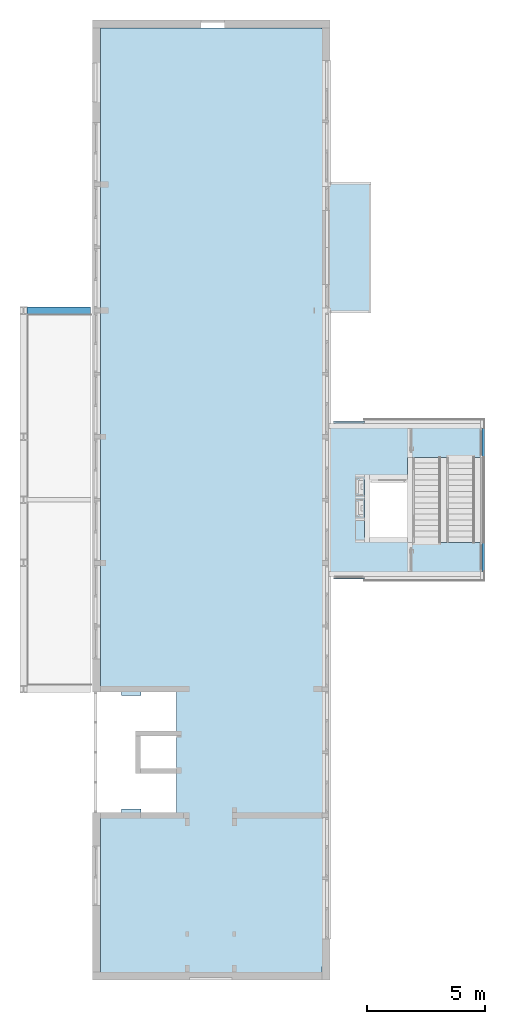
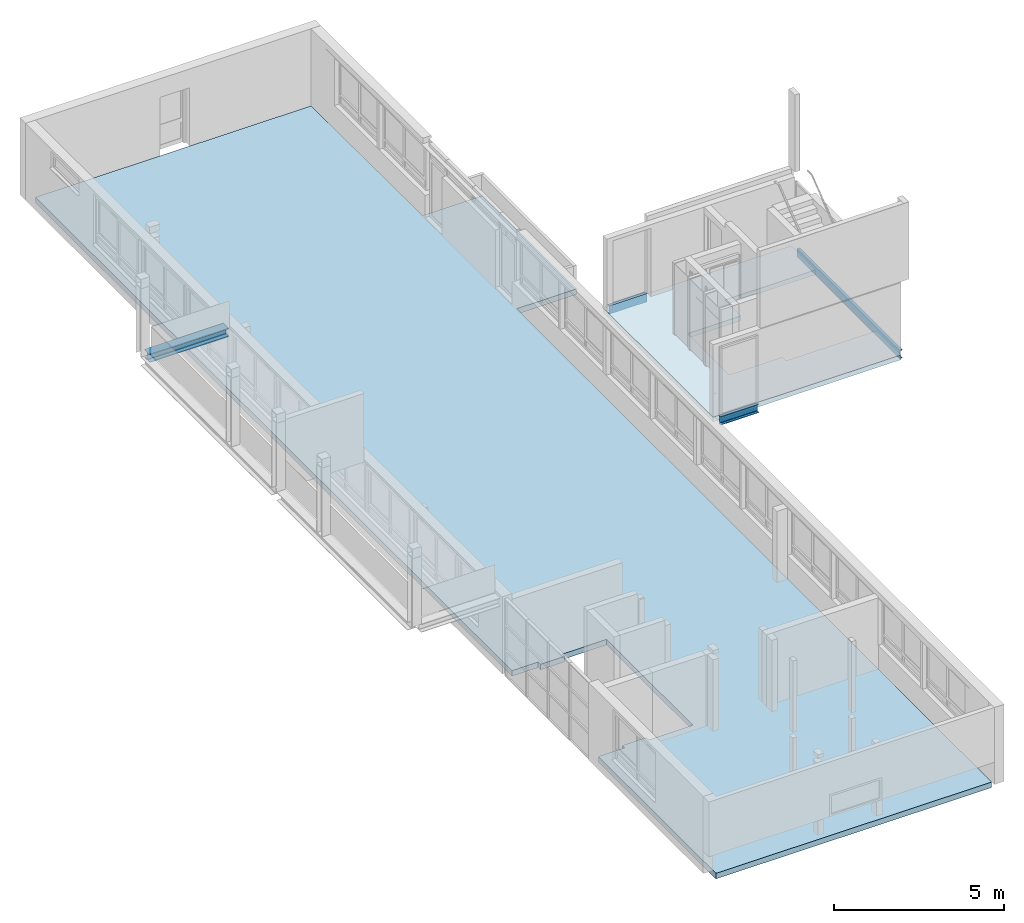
# One storey, part 4 of 14: 4 beams, 2 slabs.
"""IFC2X3 building model written with IfcOpenShell, lengths in millimetres."""

from ifc_helpers import new_model, entity, si_unit, converted_unit, derived_unit, money_unit, direction, frame, origin_with_axes, place, context, subcontext, project, spatial, faceted_brep, material, type_object, element, save


model = new_model("IFC2X3")

# Units and contexts
model_context = context("Model", 3, precision=0.01, world=origin_with_axes(), true_north=direction((0.0, 1.0)))
body_context = subcontext(model_context, "Body", "Model", "MODEL_VIEW")
ifc_project = project(units=[si_unit("LENGTHUNIT", "METRE", prefix="MILLI"), si_unit("AREAUNIT", "SQUARE_METRE"), si_unit("VOLUMEUNIT", "CUBIC_METRE"), converted_unit("PLANEANGLEUNIT", "DEGREE", entity("IfcPlaneAngleMeasure", 0.0174532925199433), si_unit("PLANEANGLEUNIT", "RADIAN"), dimensions=[0, 0, 0, 0, 0, 0, 0]), money_unit("EUR"), converted_unit("TIMEUNIT", "Year", entity("IfcTimeMeasure", 31557600.0), si_unit("TIMEUNIT", "SECOND"), dimensions=[0, 0, 1, 0, 0, 0, 0]), si_unit("MASSUNIT", "GRAM", prefix="KILO"), si_unit("THERMODYNAMICTEMPERATUREUNIT", "DEGREE_CELSIUS"), si_unit("LUMINOUSINTENSITYUNIT", "LUMEN"), si_unit("ENERGYUNIT", "JOULE", prefix="MEGA"), derived_unit("THERMALCONDUCTANCEUNIT", [(si_unit("POWERUNIT", "WATT"), 1), (si_unit("LENGTHUNIT", "METRE"), -1), (si_unit("THERMODYNAMICTEMPERATUREUNIT", "KELVIN"), -1)]), derived_unit("SPECIFICHEATCAPACITYUNIT", [(si_unit("ENERGYUNIT", "JOULE"), 1), (si_unit("MASSUNIT", "GRAM", prefix="KILO"), -1), (si_unit("THERMODYNAMICTEMPERATUREUNIT", "KELVIN"), -1)]), derived_unit("MASSDENSITYUNIT", [(si_unit("MASSUNIT", "GRAM", prefix="KILO"), 1), (si_unit("VOLUMEUNIT", "CUBIC_METRE"), -1)])], contexts=[model_context])

# Site, building, storey
site_placement = place(None, origin_with_axes())
site = spatial("IfcSite", under=ifc_project, at=site_placement, Name="Site", CompositionType="ELEMENT")
building_placement = place(site_placement, origin_with_axes())
building = spatial("IfcBuilding", under=site, at=building_placement, Name="Naam gebouw", CompositionType="ELEMENT")
storey_placement = place(building_placement, frame((0.0, 0.0, 11460.0), z_axis=(0.0, 0.0, 1.0), x_axis=(1.0, 0.0, 0.0)))
storey = spatial("IfcBuildingStorey", under=building, at=storey_placement, Name="3e verdieping V", CompositionType="ELEMENT", Elevation=11460.0)

# Beams
ifc_material_1 = material(Name="staal")
beam_type_1 = type_object("IfcBeamType", Name="NLRS_28_SF_staal - balk - UNP:UNP300", PredefinedType="BEAM")
beam_1_placement = place(storey_placement, frame((36705.66666672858, 38965.91242623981, 2620.000000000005), z_axis=(0.0, 0.0, 1.0), x_axis=(-1.0, 0.0, 0.0)))
element("IfcBeam", 1, at=beam_1_placement, inside=storey, type_object=beam_type_1, material=ifc_material_1, Name="NLRS_28_SF_staal - balk - UNP:UNP300", ObjectType="BEAM", context=body_context, shape_type="Brep", body=[
    faceted_brep([(-45.33333333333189, 0.0, 150.0000000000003), (-45.33333333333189, 6039.999999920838, 150.0000000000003), (-45.33333333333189, 6039.999999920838, 144.0999999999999), (-45.33333333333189, 0.0, 144.0999999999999), (54.66666666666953, 0.0, 150.0000000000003), (54.66666666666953, 6039.999999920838, 150.0000000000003), (54.66666666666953, 6039.999999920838, -150.0000000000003), (-45.33333333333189, 6039.999999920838, -150.0000000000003), (-45.33333333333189, 6039.999999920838, -144.0999999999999), (-42.99018758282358, 6039.999999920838, -138.4431457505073), (-37.33333333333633, 6039.999999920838, -136.099999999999), (28.66666666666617, 6039.999999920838, -132.7999999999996), (36.66666666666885, 6039.999999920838, -130.6564064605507), (42.52307312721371, 6039.999999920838, -124.8000000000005), (44.66666666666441, 6039.999999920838, -116.7999999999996), (44.66666666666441, 6039.999999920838, 116.7999999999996), (42.52307312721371, 6039.999999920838, 124.7999999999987), (36.66666666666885, 6039.999999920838, 130.6564064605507), (28.66666666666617, 6039.999999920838, 132.7999999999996), (-37.33333333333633, 6039.999999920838, 136.1000000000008), (-42.99018758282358, 6039.999999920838, 138.4431457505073), (-42.99018758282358, 0.0, 138.4431457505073), (-37.33333333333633, 0.0, 136.1000000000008), (28.66666666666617, 0.0, 132.7999999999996), (36.66666666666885, 0.0, 130.6564064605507), (42.52307312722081, 0.0, 124.7999999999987), (44.66666666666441, 0.0, 116.7999999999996), (44.66666666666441, 0.0, -116.7999999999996), (42.52307312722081, 0.0, -124.8000000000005), (36.66666666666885, 0.0, -130.6564064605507), (28.66666666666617, 0.0, -132.7999999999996), (-37.33333333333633, 0.0, -136.099999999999), (-42.99018758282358, 0.0, -138.4431457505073), (-45.33333333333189, 0.0, -144.0999999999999), (-45.33333333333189, 0.0, -150.0000000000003), (54.66666666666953, 0.0, -150.0000000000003)], [[[0, 1, 2, 3]], [[4, 5, 1, 0]], [[2, 1, 5, 6, 7, 8, 9, 10, 11, 12, 13, 14, 15, 16, 17, 18, 19, 20]], [[3, 2, 20, 21]], [[4, 0, 3, 21, 22, 23, 24, 25, 26, 27, 28, 29, 30, 31, 32, 33, 34, 35]], [[35, 6, 5, 4]], [[34, 7, 6, 35]], [[33, 8, 7, 34]], [[32, 9, 8, 33]], [[31, 10, 9, 32]], [[30, 11, 10, 31]], [[29, 12, 11, 30]], [[28, 13, 12, 29]], [[27, 14, 13, 28]], [[26, 15, 14, 27]], [[25, 16, 15, 26]], [[24, 17, 16, 25]], [[23, 18, 17, 24]], [[22, 19, 18, 23]], [[21, 20, 19, 22]]]),
])
ifc_material_2 = material(Name="staal geanodiseerd RAL 7024")
beam_2_placement = place(storey_placement, frame((31685.00219861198, 39234.57878397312, 2620.000000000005), z_axis=(0.0, 0.0, 1.0), x_axis=(0.0, 1.0, 0.0)))
element("IfcBeam", 2, at=beam_2_placement, inside=storey, type_object=beam_type_1, material=ifc_material_2, Name="NLRS_28_SF_staal - balk - UNP:UNP300", ObjectType="BEAM", context=body_context, shape_type="Brep", body=[
    faceted_brep([(-54.66666666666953, 0.0, 150.0000000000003), (-54.66666666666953, 1294.002198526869, 150.0000000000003), (-54.66666666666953, 1294.002198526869, -150.0000000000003), (-54.66666666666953, 0.0, -150.0000000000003), (45.33333333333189, 0.0, 150.0000000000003), (45.33333333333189, 1294.002198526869, 150.0000000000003), (45.33333333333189, 1294.002198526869, 144.1000000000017), (42.99018758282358, 1294.002198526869, 138.4431457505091), (37.33333333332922, 1294.002198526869, 136.1000000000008), (-28.66666666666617, 1294.002198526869, 132.8000000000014), (-36.66666666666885, 1294.002198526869, 130.6564064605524), (-42.52307312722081, 1294.002198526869, 124.8000000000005), (-44.66666666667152, 1294.002198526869, 116.7999999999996), (-44.66666666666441, 1294.002198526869, -116.8000000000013), (-42.52307312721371, 1294.002198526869, -124.8000000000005), (-36.66666666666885, 1294.002198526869, -130.6564064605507), (-28.66666666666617, 1294.002198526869, -132.7999999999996), (37.33333333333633, 1294.002198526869, -136.099999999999), (42.99018758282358, 1294.002198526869, -138.4431457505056), (45.33333333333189, 1294.002198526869, -144.0999999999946), (45.33333333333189, 1294.002198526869, -150.0000000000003), (45.33333333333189, 0.0, -150.0000000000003), (45.33333333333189, 0.0, -144.0999999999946), (42.99018758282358, 0.0, -138.4431457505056), (37.33333333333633, 0.0, -136.099999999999), (-28.66666666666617, 0.0, -132.7999999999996), (-36.66666666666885, 0.0, -130.6564064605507), (-42.52307312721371, 0.0, -124.8000000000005), (-44.66666666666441, 0.0, -116.8000000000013), (-44.66666666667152, 0.0, 116.7999999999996), (-42.52307312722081, 0.0, 124.8000000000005), (-36.66666666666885, 0.0, 130.6564064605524), (-28.66666666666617, 0.0, 132.8000000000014), (37.33333333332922, 0.0, 136.1000000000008), (42.99018758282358, 0.0, 138.4431457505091), (45.33333333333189, 0.0, 144.1000000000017)], [[[0, 1, 2, 3]], [[4, 5, 1, 0]], [[2, 1, 5, 6, 7, 8, 9, 10, 11, 12, 13, 14, 15, 16, 17, 18, 19, 20]], [[3, 2, 20, 21]], [[4, 0, 3, 21, 22, 23, 24, 25, 26, 27, 28, 29, 30, 31, 32, 33, 34, 35]], [[35, 6, 5, 4]], [[34, 7, 6, 35]], [[33, 8, 7, 34]], [[32, 9, 8, 33]], [[31, 10, 9, 32]], [[30, 11, 10, 31]], [[29, 12, 11, 30]], [[28, 13, 12, 29]], [[27, 14, 13, 28]], [[26, 15, 14, 27]], [[25, 16, 15, 26]], [[24, 17, 16, 25]], [[23, 18, 17, 24]], [[22, 19, 18, 23]], [[21, 20, 19, 22]]]),
])
beam_3_placement = place(storey_placement, frame((31685.00219855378, 32657.24606858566, 2620.000000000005), z_axis=(0.0, 0.0, 1.0), x_axis=(0.0, 1.0, 0.0)))
element("IfcBeam", 3, at=beam_3_placement, inside=storey, type_object=beam_type_1, material=ifc_material_1, Name="NLRS_28_SF_staal - balk - UNP:UNP300", ObjectType="BEAM", context=body_context, shape_type="Brep", body=[
    faceted_brep([(-45.33333333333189, 0.0, 150.0000000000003), (-45.33333333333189, 1294.002198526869, 150.0000000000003), (-45.33333333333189, 1294.002198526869, 144.0999999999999), (-45.33333333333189, 0.0, 144.0999999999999), (54.66666666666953, 0.0, 150.0000000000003), (54.66666666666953, 1294.002198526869, 150.0000000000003), (54.66666666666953, 1294.002198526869, -150.0000000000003), (-45.33333333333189, 1294.002198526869, -150.0000000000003), (-45.33333333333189, 1294.002198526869, -144.0999999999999), (-42.99018758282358, 1294.002198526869, -138.4431457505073), (-37.33333333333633, 1294.002198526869, -136.099999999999), (28.66666666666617, 1294.002198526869, -132.7999999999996), (36.66666666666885, 1294.002198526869, -130.6564064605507), (42.52307312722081, 1294.002198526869, -124.8000000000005), (44.66666666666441, 1294.002198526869, -116.7999999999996), (44.66666666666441, 1294.002198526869, 116.7999999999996), (42.52307312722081, 1294.002198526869, 124.7999999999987), (36.66666666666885, 1294.002198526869, 130.6564064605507), (28.66666666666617, 1294.002198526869, 132.7999999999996), (-37.33333333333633, 1294.002198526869, 136.1000000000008), (-42.99018758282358, 1294.002198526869, 138.4431457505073), (-42.99018758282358, 0.0, 138.4431457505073), (-37.33333333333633, 0.0, 136.1000000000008), (28.66666666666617, 0.0, 132.7999999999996), (36.66666666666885, 0.0, 130.6564064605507), (42.52307312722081, 0.0, 124.7999999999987), (44.66666666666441, 0.0, 116.7999999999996), (44.66666666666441, 0.0, -116.7999999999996), (42.52307312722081, 0.0, -124.8000000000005), (36.66666666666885, 0.0, -130.6564064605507), (28.66666666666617, 0.0, -132.7999999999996), (-37.33333333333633, 0.0, -136.099999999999), (-42.99018758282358, 0.0, -138.4431457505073), (-45.33333333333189, 0.0, -144.0999999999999), (-45.33333333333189, 0.0, -150.0000000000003), (54.66666666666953, 0.0, -150.0000000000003)], [[[0, 1, 2, 3]], [[4, 5, 1, 0]], [[2, 1, 5, 6, 7, 8, 9, 10, 11, 12, 13, 14, 15, 16, 17, 18, 19, 20]], [[3, 2, 20, 21]], [[4, 0, 3, 21, 22, 23, 24, 25, 26, 27, 28, 29, 30, 31, 32, 33, 34, 35]], [[35, 6, 5, 4]], [[34, 7, 6, 35]], [[33, 8, 7, 34]], [[32, 9, 8, 33]], [[31, 10, 9, 32]], [[30, 11, 10, 31]], [[29, 12, 11, 30]], [[28, 13, 12, 29]], [[27, 14, 13, 28]], [[26, 15, 14, 27]], [[25, 16, 15, 26]], [[24, 17, 16, 25]], [[23, 18, 17, 24]], [[22, 19, 18, 23]], [[21, 20, 19, 22]]]),
])
beam_type_2 = type_object("IfcBeamType", Name="NLRS_28_SF_LIB_balk HE_generiek_ISR:balk HE_gen_HEB300", PredefinedType="BEAM")
beam_4_placement = place(storey_placement, frame((20122.00000008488, 43945.91242627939, 2620.000000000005), z_axis=(0.0, 0.0, 1.0), x_axis=(0.0, 1.0, 0.0)))
element("IfcBeam", 4, at=beam_4_placement, inside=storey, type_object=beam_type_2, material=ifc_material_2, Name="NLRS_28_SF_LIB_balk HE_generiek_ISR:balk HE_gen_HEB300", ObjectType="BEAM", context=body_context, shape_type="Brep", body=[
    faceted_brep([(-149.9999999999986, 0.0, 150.0000000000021), (-149.9999999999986, 2680.000000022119, 150.0000000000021), (-149.9999999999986, 2680.000000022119, 131.000000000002), (-149.9999999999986, 0.0, 131.000000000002), (149.9999999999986, 0.0, 150.0000000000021), (149.9999999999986, 2680.000000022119, 150.0000000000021), (149.9999999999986, 2680.000000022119, 131.000000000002), (32.49999999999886, 2680.000000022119, 131.000000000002), (18.99999999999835, 2680.000000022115, 127.382685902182), (9.11731409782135, 2680.000000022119, 117.5000000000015), (5.49999999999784, 2680.000000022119, 104.000000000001), (5.49999999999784, 2680.000000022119, -103.9999999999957), (9.11731409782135, 2680.000000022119, -117.4999999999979), (18.99999999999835, 2680.000000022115, -127.3826859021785), (32.49999999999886, 2680.000000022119, -130.9999999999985), (149.9999999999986, 2680.000000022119, -130.9999999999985), (149.9999999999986, 2680.000000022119, -149.9999999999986), (-149.9999999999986, 2680.000000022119, -149.9999999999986), (-149.9999999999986, 2680.000000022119, -130.9999999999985), (-32.50000000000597, 2680.000000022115, -130.9999999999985), (-18.99999999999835, 2680.000000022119, -127.3826859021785), (-9.11731409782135, 2680.000000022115, -117.4999999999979), (-5.49999999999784, 2680.000000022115, -103.9999999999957), (-5.49999999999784, 2680.000000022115, 104.000000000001), (-9.11731409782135, 2680.000000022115, 117.5000000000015), (-18.99999999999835, 2680.000000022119, 127.382685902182), (-32.50000000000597, 2680.000000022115, 131.000000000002), (-32.50000000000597, 0.0, 131.000000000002), (-18.99999999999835, 0.0, 127.382685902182), (-9.11731409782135, 0.0, 117.5000000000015), (-5.49999999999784, 0.0, 104.000000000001), (-5.49999999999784, 0.0, -103.9999999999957), (-9.11731409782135, 0.0, -117.4999999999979), (-18.99999999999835, 0.0, -127.3826859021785), (-32.50000000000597, 0.0, -130.9999999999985), (-149.9999999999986, 0.0, -130.9999999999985), (-149.9999999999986, 0.0, -149.9999999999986), (149.9999999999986, 0.0, -149.9999999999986), (149.9999999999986, 0.0, -130.9999999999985), (32.49999999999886, 0.0, -130.9999999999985), (18.99999999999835, 0.0, -127.3826859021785), (9.11731409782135, 0.0, -117.4999999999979), (5.49999999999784, 0.0, -103.9999999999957), (5.49999999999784, 0.0, 104.000000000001), (9.11731409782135, 0.0, 117.5000000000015), (18.99999999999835, 0.0, 127.382685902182), (32.49999999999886, 0.0, 131.000000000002), (149.9999999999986, 0.0, 131.000000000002)], [[[0, 1, 2, 3]], [[4, 5, 1, 0]], [[2, 1, 5, 6, 7, 8, 9, 10, 11, 12, 13, 14, 15, 16, 17, 18, 19, 20, 21, 22, 23, 24, 25, 26]], [[3, 2, 26, 27]], [[4, 0, 3, 27, 28, 29, 30, 31, 32, 33, 34, 35, 36, 37, 38, 39, 40, 41, 42, 43, 44, 45, 46, 47]], [[47, 6, 5, 4]], [[46, 7, 6, 47]], [[45, 8, 7, 46]], [[44, 9, 8, 45]], [[43, 10, 9, 44]], [[42, 11, 10, 43]], [[41, 12, 11, 42]], [[40, 13, 12, 41]], [[39, 14, 13, 40]], [[38, 15, 14, 39]], [[37, 16, 15, 38]], [[36, 17, 16, 37]], [[35, 18, 17, 36]], [[34, 19, 18, 35]], [[33, 20, 19, 34]], [[32, 21, 20, 33]], [[31, 22, 21, 32]], [[30, 23, 22, 31]], [[29, 24, 23, 30]], [[28, 25, 24, 29]], [[27, 26, 25, 28]]]),
])

# Slabs
ifc_material_3 = material(Name="ALG - CONSTRUCTIEF VLOER")
slab_type_1 = type_object("IfcSlabType", Name="ALG Vloer 200", PredefinedType="NOTDEFINED")
slab_1_placement = place(storey_placement, frame((23749.99999999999, 22750.91242510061, 0.0), z_axis=(0.0, 0.0, 1.0), x_axis=(1.0, 0.0, 0.0)))
element("IfcSlab", 5, at=slab_1_placement, inside=storey, type_object=slab_type_1, material=ifc_material_3, Name="_Vloer-x", PredefinedType="NOTDEFINED", context=body_context, shape_type="Brep", body=[
    faceted_brep([(0.0, 0.0, 0.0), (0.0, 0.0, -199.9999999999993), (-1503.999999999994, 0.0, -199.9999999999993), (-1503.999999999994, 0.0, 0.0), (0.0, 5080.000000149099, 0.0), (0.0, 5080.000000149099, -199.9999999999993), (-1503.999999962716, 5080.000000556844, -199.9999999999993), (-1503.999999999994, 4942.499999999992, -199.9999999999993), (-2323.999999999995, 4942.499999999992, -199.9999999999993), (-2324.000000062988, 5080.00000013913, -199.9999999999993), (-3213.999999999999, 5079.999999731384, -199.9999999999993), (-3213.999999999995, 33134.91637290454, -199.9999999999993), (6156.000000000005, 33134.99999999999, -199.9999999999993), (6195.000000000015, 26624.99999999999, -199.9999999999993), (8225.000000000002, 26624.99999999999, -199.9999999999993), (8225.000000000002, 21094.99999999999, -199.9999999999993), (6195.000000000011, 21094.99999999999, -199.9999999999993), (6155.754893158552, -6925.000000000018, -199.9999999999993), (-3213.999999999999, -6925.000000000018, -199.9999999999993), (-3213.999999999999, 0.0, -199.9999999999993), (-2323.999999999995, 0.0, -199.9999999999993), (-2323.999999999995, 137.4999999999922, -199.9999999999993), (-1503.999999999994, 137.4999999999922, -199.9999999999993), (-1503.999999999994, 137.4999999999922, 0.0), (-2323.999999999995, 137.4999999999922, 0.0), (-2323.999999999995, 0.0, 0.0), (-3213.999999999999, 0.0, 0.0), (-3213.999999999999, -6925.000000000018, 0.0), (6155.754893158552, -6925.000000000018, 0.0), (6195.000000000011, 21094.99999999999, 0.0), (8225.000000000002, 21094.99999999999, 0.0), (8225.000000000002, 26624.99999999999, 0.0), (6195.000000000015, 26624.99999999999, 0.0), (6156.000000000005, 33134.99999999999, 0.0), (-3213.999999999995, 33134.91637290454, 0.0), (-3213.999999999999, 5079.999999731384, 0.0), (-2324.000000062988, 5080.00000013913, 0.0), (-2323.999999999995, 4942.499999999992, 0.0), (-1503.999999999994, 4942.499999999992, 0.0), (-1503.999999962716, 5080.000000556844, 0.0)], [[[0, 1, 2, 3]], [[4, 5, 1, 0]], [[2, 1, 5, 6, 7, 8, 9, 10, 11, 12, 13, 14, 15, 16, 17, 18, 19, 20, 21, 22]], [[3, 2, 22, 23]], [[4, 0, 3, 23, 24, 25, 26, 27, 28, 29, 30, 31, 32, 33, 34, 35, 36, 37, 38, 39]], [[39, 6, 5, 4]], [[38, 7, 6, 39]], [[37, 8, 7, 38]], [[36, 9, 8, 37]], [[35, 10, 9, 36]], [[34, 11, 10, 35]], [[33, 12, 11, 34]], [[32, 13, 12, 33]], [[31, 14, 13, 32]], [[30, 15, 14, 31]], [[29, 16, 15, 30]], [[28, 17, 16, 29]], [[27, 18, 17, 28]], [[26, 19, 18, 27]], [[25, 20, 19, 26]], [[24, 21, 20, 25]], [[23, 22, 21, 24]]]),
])
ifc_material_4 = material(Name="beton")
slab_type_2 = type_object("IfcSlabType", Name="Floor:23_3B_beton 170mm", PredefinedType="FLOOR")
slab_2_placement = place(storey_placement, frame((36580.00000003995, 32711.91242634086, 2770.00000000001), z_axis=(0.0, 0.0, 1.0), x_axis=(1.0, 0.0, 0.0)))
element("IfcSlab", 6, at=slab_2_placement, inside=storey, type_object=slab_type_2, material=ifc_material_4, Name="Floor:23_3B_beton 170mm", PredefinedType="FLOOR", context=body_context, shape_type="Brep", body=[
    faceted_brep([(0.0, 0.0, 0.0), (0.0, 0.0, -169.9999999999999), (0.0, 1433.999999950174, -169.9999999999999), (0.0, 1433.999999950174, 0.0), (-6388.999999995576, 0.0, 0.0), (-6388.999999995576, 0.0, -169.9999999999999), (-6389.00000002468, 6467.999999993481, -169.9999999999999), (0.0, 6467.999999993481, -169.9999999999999), (0.0, 5033.999999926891, -169.9999999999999), (-3082.000000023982, 5034.000000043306, -169.9999999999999), (-3081.999999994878, 4087.999999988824, -169.9999999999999), (-4896.000000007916, 4087.999999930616, -169.9999999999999), (-4896.000000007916, 1647.999999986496, -169.9999999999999), (-3081.999999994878, 1647.999999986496, -169.9999999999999), (-3082.000000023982, 1434.000000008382, -169.9999999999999), (-3082.000000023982, 1434.000000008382, 0.0), (-3081.999999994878, 1647.999999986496, 0.0), (-4896.000000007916, 1647.999999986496, 0.0), (-4896.000000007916, 4087.999999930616, 0.0), (-3081.999999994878, 4087.999999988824, 0.0), (-3082.000000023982, 5034.000000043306, 0.0), (0.0, 5033.999999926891, 0.0), (0.0, 6467.999999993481, 0.0), (-6389.00000002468, 6467.999999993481, 0.0)], [[[0, 1, 2, 3]], [[4, 5, 1, 0]], [[2, 1, 5, 6, 7, 8, 9, 10, 11, 12, 13, 14]], [[3, 2, 14, 15]], [[4, 0, 3, 15, 16, 17, 18, 19, 20, 21, 22, 23]], [[23, 6, 5, 4]], [[22, 7, 6, 23]], [[21, 8, 7, 22]], [[20, 9, 8, 21]], [[19, 10, 9, 20]], [[18, 11, 10, 19]], [[17, 12, 11, 18]], [[16, 13, 12, 17]], [[15, 14, 13, 16]]]),
])

save(model, "model.ifc")
